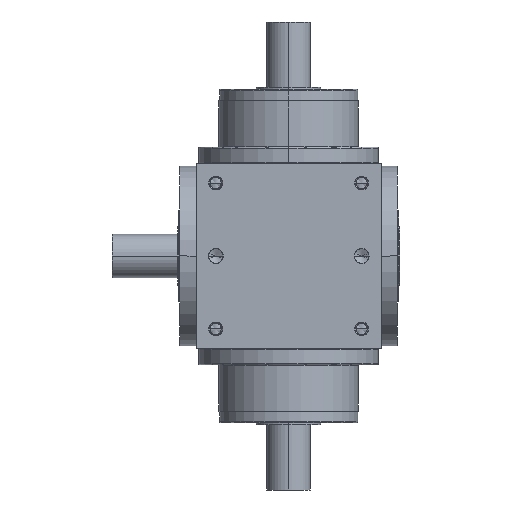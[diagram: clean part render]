
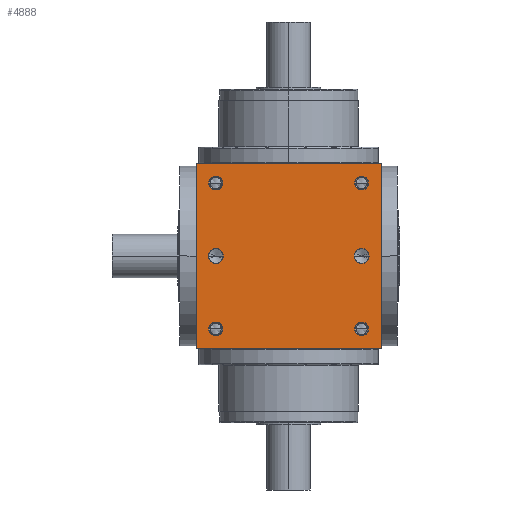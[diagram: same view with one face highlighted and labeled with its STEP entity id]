
A CAD part, front view. The second image highlights one B-rep face of the part: STEP entity #4888.
In plain terms, the highlighted planar face has unit normal (0, -1, 0).
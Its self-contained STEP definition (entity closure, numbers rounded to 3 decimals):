
#5=DIRECTION('',(1.,0.,0.));
#6=VECTOR('',#5,170.);
#7=CARTESIAN_POINT('',(-85.,-85.,-85.));
#8=LINE('',#7,#6);
#165=DIRECTION('',(0.,0.,1.));
#166=VECTOR('',#165,170.);
#167=CARTESIAN_POINT('',(85.,-85.,-85.));
#168=LINE('',#167,#166);
#219=DIRECTION('',(0.,0.,1.));
#220=VECTOR('',#219,170.);
#221=CARTESIAN_POINT('',(-85.,-85.,-85.));
#222=LINE('',#221,#220);
#223=CARTESIAN_POINT('',(67.,-85.,67.));
#224=DIRECTION('',(0.,1.,0.));
#225=DIRECTION('',(-1.,0.,0.));
#226=AXIS2_PLACEMENT_3D('',#223,#224,#225);
#228=CARTESIAN_POINT('',(67.,-85.,67.));
#229=DIRECTION('',(0.,1.,0.));
#230=DIRECTION('',(1.,0.,0.));
#231=AXIS2_PLACEMENT_3D('',#228,#229,#230);
#233=CARTESIAN_POINT('',(-67.,-85.,67.));
#234=DIRECTION('',(0.,1.,0.));
#235=DIRECTION('',(-1.,0.,0.));
#236=AXIS2_PLACEMENT_3D('',#233,#234,#235);
#238=CARTESIAN_POINT('',(-67.,-85.,67.));
#239=DIRECTION('',(0.,1.,0.));
#240=DIRECTION('',(1.,0.,0.));
#241=AXIS2_PLACEMENT_3D('',#238,#239,#240);
#243=CARTESIAN_POINT('',(67.,-85.,-67.));
#244=DIRECTION('',(0.,1.,0.));
#245=DIRECTION('',(-1.,0.,0.));
#246=AXIS2_PLACEMENT_3D('',#243,#244,#245);
#248=CARTESIAN_POINT('',(67.,-85.,-67.));
#249=DIRECTION('',(0.,1.,0.));
#250=DIRECTION('',(1.,0.,0.));
#251=AXIS2_PLACEMENT_3D('',#248,#249,#250);
#253=CARTESIAN_POINT('',(-67.,-85.,-67.));
#254=DIRECTION('',(0.,1.,0.));
#255=DIRECTION('',(-1.,0.,0.));
#256=AXIS2_PLACEMENT_3D('',#253,#254,#255);
#258=CARTESIAN_POINT('',(-67.,-85.,-67.));
#259=DIRECTION('',(0.,1.,0.));
#260=DIRECTION('',(1.,0.,0.));
#261=AXIS2_PLACEMENT_3D('',#258,#259,#260);
#263=CARTESIAN_POINT('',(-67.,-85.,0.));
#264=DIRECTION('',(0.,1.,0.));
#265=DIRECTION('',(1.,0.,0.));
#266=AXIS2_PLACEMENT_3D('',#263,#264,#265);
#268=CARTESIAN_POINT('',(-67.,-85.,0.));
#269=DIRECTION('',(0.,1.,0.));
#270=DIRECTION('',(-1.,0.,0.));
#271=AXIS2_PLACEMENT_3D('',#268,#269,#270);
#273=CARTESIAN_POINT('',(67.,-85.,0.));
#274=DIRECTION('',(0.,1.,0.));
#275=DIRECTION('',(1.,0.,0.));
#276=AXIS2_PLACEMENT_3D('',#273,#274,#275);
#278=CARTESIAN_POINT('',(67.,-85.,0.));
#279=DIRECTION('',(0.,1.,0.));
#280=DIRECTION('',(-1.,0.,0.));
#281=AXIS2_PLACEMENT_3D('',#278,#279,#280);
#295=DIRECTION('',(1.,0.,0.));
#296=VECTOR('',#295,170.);
#297=CARTESIAN_POINT('',(-85.,-85.,85.));
#298=LINE('',#297,#296);
#3910=CARTESIAN_POINT('',(-85.,-85.,-85.));
#3912=VERTEX_POINT('',#3910);
#3913=CARTESIAN_POINT('',(85.,-85.,-85.));
#3914=VERTEX_POINT('',#3913);
#3918=CARTESIAN_POINT('',(-85.,-85.,85.));
#3920=VERTEX_POINT('',#3918);
#3921=CARTESIAN_POINT('',(85.,-85.,85.));
#3922=VERTEX_POINT('',#3921);
#4093=CARTESIAN_POINT('',(60.65,-85.,67.));
#4094=CARTESIAN_POINT('',(73.35,-85.,67.));
#4095=VERTEX_POINT('',#4093);
#4096=VERTEX_POINT('',#4094);
#4101=CARTESIAN_POINT('',(-73.35,-85.,67.));
#4102=CARTESIAN_POINT('',(-60.65,-85.,67.));
#4103=VERTEX_POINT('',#4101);
#4104=VERTEX_POINT('',#4102);
#4109=CARTESIAN_POINT('',(60.65,-85.,-67.));
#4110=CARTESIAN_POINT('',(73.35,-85.,-67.));
#4111=VERTEX_POINT('',#4109);
#4112=VERTEX_POINT('',#4110);
#4117=CARTESIAN_POINT('',(-73.35,-85.,-67.));
#4118=CARTESIAN_POINT('',(-60.65,-85.,-67.));
#4119=VERTEX_POINT('',#4117);
#4120=VERTEX_POINT('',#4118);
#4459=CARTESIAN_POINT('',(-60.15,-85.,0.));
#4460=CARTESIAN_POINT('',(-73.85,-85.,
0.));
#4461=VERTEX_POINT('',#4459);
#4462=VERTEX_POINT('',#4460);
#4467=CARTESIAN_POINT('',(73.85,-85.,0.));
#4468=CARTESIAN_POINT('',(60.15,-85.,0.));
#4469=VERTEX_POINT('',#4467);
#4470=VERTEX_POINT('',#4468);
#4840=CARTESIAN_POINT('',(-85.,-85.,-85.));
#4841=DIRECTION('',(0.,-1.,0.));
#4842=DIRECTION('',(1.,0.,0.));
#4843=AXIS2_PLACEMENT_3D('',#4840,#4841,#4842);
#4844=PLANE('',#4843);
#4845=ORIENTED_EDGE('',*,*,#4674,.F.);
#4846=ORIENTED_EDGE('',*,*,#4723,.T.);
#4848=ORIENTED_EDGE('',*,*,#4847,.T.);
#4849=ORIENTED_EDGE('',*,*,#4802,.F.);
#4850=EDGE_LOOP('',(#4845,#4846,#4848,#4849));
#4851=FACE_OUTER_BOUND('',#4850,.F.);
#4853=ORIENTED_EDGE('',*,*,#4852,.F.);
#4855=ORIENTED_EDGE('',*,*,#4854,.F.);
#4856=EDGE_LOOP('',(#4853,#4855));
#4857=FACE_BOUND('',#4856,.F.);
#4859=ORIENTED_EDGE('',*,*,#4858,.F.);
#4861=ORIENTED_EDGE('',*,*,#4860,.F.);
#4862=EDGE_LOOP('',(#4859,#4861));
#4863=FACE_BOUND('',#4862,.F.);
#4865=ORIENTED_EDGE('',*,*,#4864,.F.);
#4867=ORIENTED_EDGE('',*,*,#4866,.F.);
#4868=EDGE_LOOP('',(#4865,#4867));
#4869=FACE_BOUND('',#4868,.F.);
#4871=ORIENTED_EDGE('',*,*,#4870,.F.);
#4873=ORIENTED_EDGE('',*,*,#4872,.F.);
#4874=EDGE_LOOP('',(#4871,#4873));
#4875=FACE_BOUND('',#4874,.F.);
#4877=ORIENTED_EDGE('',*,*,#4876,.F.);
#4879=ORIENTED_EDGE('',*,*,#4878,.F.);
#4880=EDGE_LOOP('',(#4877,#4879));
#4881=FACE_BOUND('',#4880,.F.);
#4883=ORIENTED_EDGE('',*,*,#4882,.F.);
#4885=ORIENTED_EDGE('',*,*,#4884,.F.);
#4886=EDGE_LOOP('',(#4883,#4885));
#4887=FACE_BOUND('',#4886,.F.);
#4888=ADVANCED_FACE('',(#4851,#4857,#4863,#4869,#4875,#4881,#4887),#4844,.T.);
#227=CIRCLE('',#226,6.35);
#232=CIRCLE('',#231,6.35);
#237=CIRCLE('',#236,6.35);
#242=CIRCLE('',#241,6.35);
#247=CIRCLE('',#246,6.35);
#252=CIRCLE('',#251,6.35);
#257=CIRCLE('',#256,6.35);
#262=CIRCLE('',#261,6.35);
#267=CIRCLE('',#266,6.85);
#272=CIRCLE('',#271,6.85);
#277=CIRCLE('',#276,6.85);
#282=CIRCLE('',#281,6.85);
#4674=EDGE_CURVE('',#3912,#3914,#8,.T.);
#4723=EDGE_CURVE('',#3912,#3920,#222,.T.);
#4802=EDGE_CURVE('',#3914,#3922,#168,.T.);
#4847=EDGE_CURVE('',#3920,#3922,#298,.T.);
#4852=EDGE_CURVE('',#4095,#4096,#227,.T.);
#4854=EDGE_CURVE('',#4096,#4095,#232,.T.);
#4858=EDGE_CURVE('',#4103,#4104,#237,.T.);
#4860=EDGE_CURVE('',#4104,#4103,#242,.T.);
#4864=EDGE_CURVE('',#4111,#4112,#247,.T.);
#4866=EDGE_CURVE('',#4112,#4111,#252,.T.);
#4870=EDGE_CURVE('',#4119,#4120,#257,.T.);
#4872=EDGE_CURVE('',#4120,#4119,#262,.T.);
#4876=EDGE_CURVE('',#4461,#4462,#267,.T.);
#4878=EDGE_CURVE('',#4462,#4461,#272,.T.);
#4882=EDGE_CURVE('',#4469,#4470,#277,.T.);
#4884=EDGE_CURVE('',#4470,#4469,#282,.T.);
